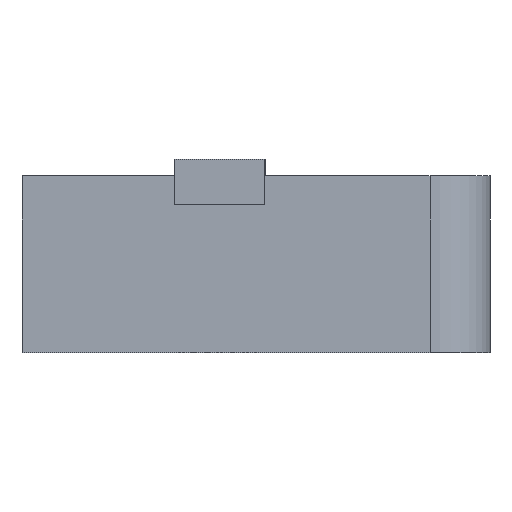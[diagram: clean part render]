
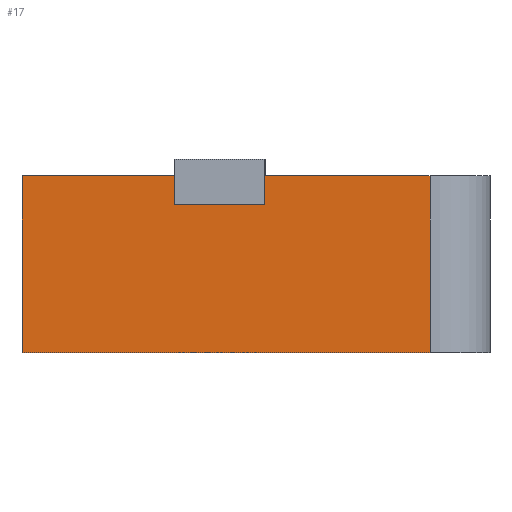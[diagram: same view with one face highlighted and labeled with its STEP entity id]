
A CAD part, left-side view. The second image highlights one B-rep face of the part: STEP entity #17.
In plain terms, the highlighted planar face has unit normal (-1, 0, 0).
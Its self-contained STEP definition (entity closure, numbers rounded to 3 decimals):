
#17 = ADVANCED_FACE('',(#18,#137),#32,.F.);
#18 = FACE_BOUND('',#19,.F.);
#19 = EDGE_LOOP('',(#20,#55,#83,#111));
#20 = ORIENTED_EDGE('',*,*,#21,.F.);
#21 = EDGE_CURVE('',#22,#24,#26,.T.);
#22 = VERTEX_POINT('',#23);
#23 = CARTESIAN_POINT('',(-9.,-55.,2.55));
#24 = VERTEX_POINT('',#25);
#25 = CARTESIAN_POINT('',(-9.,-55.,8.45));
#26 = SURFACE_CURVE('',#27,(#31,#43),.PCURVE_S1.);
#27 = LINE('',#28,#29);
#28 = CARTESIAN_POINT('',(-9.,-55.,2.55));
#29 = VECTOR('',#30,1.);
#30 = DIRECTION('',(0.,0.,1.));
#31 = PCURVE('',#32,#37);
#32 = PLANE('',#33);
#33 = AXIS2_PLACEMENT_3D('',#34,#35,#36);
#34 = CARTESIAN_POINT('',(-9.,-57.,2.55));
#35 = DIRECTION('',(1.,0.,0.));
#36 = DIRECTION('',(0.,0.,1.));
#37 = DEFINITIONAL_REPRESENTATION('',(#38),#42);
#38 = LINE('',#39,#40);
#39 = CARTESIAN_POINT('',(0.,-2.));
#40 = VECTOR('',#41,1.);
#41 = DIRECTION('',(1.,0.));
#42 = ( GEOMETRIC_REPRESENTATION_CONTEXT(2) 
PARAMETRIC_REPRESENTATION_CONTEXT() REPRESENTATION_CONTEXT('2D SPACE',''
  ) );
#43 = PCURVE('',#44,#49);
#44 = CYLINDRICAL_SURFACE('',#45,2.);
#45 = AXIS2_PLACEMENT_3D('',#46,#47,#48);
#46 = CARTESIAN_POINT('',(-7.,-55.,2.55));
#47 = DIRECTION('',(0.,0.,1.));
#48 = DIRECTION('',(-1.,-0.,0.));
#49 = DEFINITIONAL_REPRESENTATION('',(#50),#54);
#50 = LINE('',#51,#52);
#51 = CARTESIAN_POINT('',(0.,0.));
#52 = VECTOR('',#53,1.);
#53 = DIRECTION('',(0.,1.));
#54 = ( GEOMETRIC_REPRESENTATION_CONTEXT(2) 
PARAMETRIC_REPRESENTATION_CONTEXT() REPRESENTATION_CONTEXT('2D SPACE',''
  ) );
#55 = ORIENTED_EDGE('',*,*,#56,.T.);
#56 = EDGE_CURVE('',#22,#57,#59,.T.);
#57 = VERTEX_POINT('',#58);
#58 = CARTESIAN_POINT('',(-9.,-41.4,2.55));
#59 = SURFACE_CURVE('',#60,(#64,#71),.PCURVE_S1.);
#60 = LINE('',#61,#62);
#61 = CARTESIAN_POINT('',(-9.,-57.,2.55));
#62 = VECTOR('',#63,1.);
#63 = DIRECTION('',(0.,1.,0.));
#64 = PCURVE('',#32,#65);
#65 = DEFINITIONAL_REPRESENTATION('',(#66),#70);
#66 = LINE('',#67,#68);
#67 = CARTESIAN_POINT('',(0.,0.));
#68 = VECTOR('',#69,1.);
#69 = DIRECTION('',(0.,-1.));
#70 = ( GEOMETRIC_REPRESENTATION_CONTEXT(2) 
PARAMETRIC_REPRESENTATION_CONTEXT() REPRESENTATION_CONTEXT('2D SPACE',''
  ) );
#71 = PCURVE('',#72,#77);
#72 = PLANE('',#73);
#73 = AXIS2_PLACEMENT_3D('',#74,#75,#76);
#74 = CARTESIAN_POINT('',(-9.,-57.,2.55));
#75 = DIRECTION('',(0.,0.,1.));
#76 = DIRECTION('',(1.,0.,0.));
#77 = DEFINITIONAL_REPRESENTATION('',(#78),#82);
#78 = LINE('',#79,#80);
#79 = CARTESIAN_POINT('',(0.,0.));
#80 = VECTOR('',#81,1.);
#81 = DIRECTION('',(0.,1.));
#82 = ( GEOMETRIC_REPRESENTATION_CONTEXT(2) 
PARAMETRIC_REPRESENTATION_CONTEXT() REPRESENTATION_CONTEXT('2D SPACE',''
  ) );
#83 = ORIENTED_EDGE('',*,*,#84,.T.);
#84 = EDGE_CURVE('',#57,#85,#87,.T.);
#85 = VERTEX_POINT('',#86);
#86 = CARTESIAN_POINT('',(-9.,-41.4,8.45));
#87 = SURFACE_CURVE('',#88,(#92,#99),.PCURVE_S1.);
#88 = LINE('',#89,#90);
#89 = CARTESIAN_POINT('',(-9.,-41.4,1.65));
#90 = VECTOR('',#91,1.);
#91 = DIRECTION('',(0.,0.,1.));
#92 = PCURVE('',#32,#93);
#93 = DEFINITIONAL_REPRESENTATION('',(#94),#98);
#94 = LINE('',#95,#96);
#95 = CARTESIAN_POINT('',(-0.9,-15.6));
#96 = VECTOR('',#97,1.);
#97 = DIRECTION('',(1.,0.));
#98 = ( GEOMETRIC_REPRESENTATION_CONTEXT(2) 
PARAMETRIC_REPRESENTATION_CONTEXT() REPRESENTATION_CONTEXT('2D SPACE',''
  ) );
#99 = PCURVE('',#100,#105);
#100 = PLANE('',#101);
#101 = AXIS2_PLACEMENT_3D('',#102,#103,#104);
#102 = CARTESIAN_POINT('',(-12.5,-41.4,0.75));
#103 = DIRECTION('',(0.,1.,0.));
#104 = DIRECTION('',(0.,0.,1.));
#105 = DEFINITIONAL_REPRESENTATION('',(#106),#110);
#106 = LINE('',#107,#108);
#107 = CARTESIAN_POINT('',(0.9,3.5));
#108 = VECTOR('',#109,1.);
#109 = DIRECTION('',(1.,0.));
#110 = ( GEOMETRIC_REPRESENTATION_CONTEXT(2) 
PARAMETRIC_REPRESENTATION_CONTEXT() REPRESENTATION_CONTEXT('2D SPACE',''
  ) );
#111 = ORIENTED_EDGE('',*,*,#112,.F.);
#112 = EDGE_CURVE('',#24,#85,#113,.T.);
#113 = SURFACE_CURVE('',#114,(#118,#125),.PCURVE_S1.);
#114 = LINE('',#115,#116);
#115 = CARTESIAN_POINT('',(-9.,-57.,8.45));
#116 = VECTOR('',#117,1.);
#117 = DIRECTION('',(0.,1.,0.));
#118 = PCURVE('',#32,#119);
#119 = DEFINITIONAL_REPRESENTATION('',(#120),#124);
#120 = LINE('',#121,#122);
#121 = CARTESIAN_POINT('',(5.9,0.));
#122 = VECTOR('',#123,1.);
#123 = DIRECTION('',(0.,-1.));
#124 = ( GEOMETRIC_REPRESENTATION_CONTEXT(2) 
PARAMETRIC_REPRESENTATION_CONTEXT() REPRESENTATION_CONTEXT('2D SPACE',''
  ) );
#125 = PCURVE('',#126,#131);
#126 = PLANE('',#127);
#127 = AXIS2_PLACEMENT_3D('',#128,#129,#130);
#128 = CARTESIAN_POINT('',(-9.,-57.,8.45));
#129 = DIRECTION('',(0.,0.,1.));
#130 = DIRECTION('',(1.,0.,0.));
#131 = DEFINITIONAL_REPRESENTATION('',(#132),#136);
#132 = LINE('',#133,#134);
#133 = CARTESIAN_POINT('',(0.,0.));
#134 = VECTOR('',#135,1.);
#135 = DIRECTION('',(0.,1.));
#136 = ( GEOMETRIC_REPRESENTATION_CONTEXT(2) 
PARAMETRIC_REPRESENTATION_CONTEXT() REPRESENTATION_CONTEXT('2D SPACE',''
  ) );
#137 = FACE_BOUND('',#138,.F.);
#138 = EDGE_LOOP('',(#139,#169,#197,#225));
#139 = ORIENTED_EDGE('',*,*,#140,.T.);
#140 = EDGE_CURVE('',#141,#143,#145,.T.);
#141 = VERTEX_POINT('',#142);
#142 = CARTESIAN_POINT('',(-9.,-46.5,7.5));
#143 = VERTEX_POINT('',#144);
#144 = CARTESIAN_POINT('',(-9.,-49.5,7.5));
#145 = SURFACE_CURVE('',#146,(#150,#157),.PCURVE_S1.);
#146 = LINE('',#147,#148);
#147 = CARTESIAN_POINT('',(-9.,-53.25,7.5));
#148 = VECTOR('',#149,1.);
#149 = DIRECTION('',(0.,-1.,0.));
#150 = PCURVE('',#32,#151);
#151 = DEFINITIONAL_REPRESENTATION('',(#152),#156);
#152 = LINE('',#153,#154);
#153 = CARTESIAN_POINT('',(4.95,-3.75));
#154 = VECTOR('',#155,1.);
#155 = DIRECTION('',(0.,1.));
#156 = ( GEOMETRIC_REPRESENTATION_CONTEXT(2) 
PARAMETRIC_REPRESENTATION_CONTEXT() REPRESENTATION_CONTEXT('2D SPACE',''
  ) );
#157 = PCURVE('',#158,#163);
#158 = PLANE('',#159);
#159 = AXIS2_PLACEMENT_3D('',#160,#161,#162);
#160 = CARTESIAN_POINT('',(-18.,-49.5,7.5));
#161 = DIRECTION('',(0.,0.,1.));
#162 = DIRECTION('',(1.,0.,0.));
#163 = DEFINITIONAL_REPRESENTATION('',(#164),#168);
#164 = LINE('',#165,#166);
#165 = CARTESIAN_POINT('',(9.,-3.75));
#166 = VECTOR('',#167,1.);
#167 = DIRECTION('',(0.,-1.));
#168 = ( GEOMETRIC_REPRESENTATION_CONTEXT(2) 
PARAMETRIC_REPRESENTATION_CONTEXT() REPRESENTATION_CONTEXT('2D SPACE',''
  ) );
#169 = ORIENTED_EDGE('',*,*,#170,.T.);
#170 = EDGE_CURVE('',#143,#171,#173,.T.);
#171 = VERTEX_POINT('',#172);
#172 = CARTESIAN_POINT('',(-9.,-49.5,8.3));
#173 = SURFACE_CURVE('',#174,(#178,#185),.PCURVE_S1.);
#174 = LINE('',#175,#176);
#175 = CARTESIAN_POINT('',(-9.,-49.5,5.025));
#176 = VECTOR('',#177,1.);
#177 = DIRECTION('',(0.,0.,1.));
#178 = PCURVE('',#32,#179);
#179 = DEFINITIONAL_REPRESENTATION('',(#180),#184);
#180 = LINE('',#181,#182);
#181 = CARTESIAN_POINT('',(2.475,-7.5));
#182 = VECTOR('',#183,1.);
#183 = DIRECTION('',(1.,0.));
#184 = ( GEOMETRIC_REPRESENTATION_CONTEXT(2) 
PARAMETRIC_REPRESENTATION_CONTEXT() REPRESENTATION_CONTEXT('2D SPACE',''
  ) );
#185 = PCURVE('',#186,#191);
#186 = PLANE('',#187);
#187 = AXIS2_PLACEMENT_3D('',#188,#189,#190);
#188 = CARTESIAN_POINT('',(-18.,-49.5,7.5));
#189 = DIRECTION('',(0.,1.,0.));
#190 = DIRECTION('',(0.,0.,1.));
#191 = DEFINITIONAL_REPRESENTATION('',(#192),#196);
#192 = LINE('',#193,#194);
#193 = CARTESIAN_POINT('',(-2.475,9.));
#194 = VECTOR('',#195,1.);
#195 = DIRECTION('',(1.,0.));
#196 = ( GEOMETRIC_REPRESENTATION_CONTEXT(2) 
PARAMETRIC_REPRESENTATION_CONTEXT() REPRESENTATION_CONTEXT('2D SPACE',''
  ) );
#197 = ORIENTED_EDGE('',*,*,#198,.F.);
#198 = EDGE_CURVE('',#199,#171,#201,.T.);
#199 = VERTEX_POINT('',#200);
#200 = CARTESIAN_POINT('',(-9.,-46.5,8.3));
#201 = SURFACE_CURVE('',#202,(#206,#213),.PCURVE_S1.);
#202 = LINE('',#203,#204);
#203 = CARTESIAN_POINT('',(-9.,-53.25,8.3));
#204 = VECTOR('',#205,1.);
#205 = DIRECTION('',(0.,-1.,0.));
#206 = PCURVE('',#32,#207);
#207 = DEFINITIONAL_REPRESENTATION('',(#208),#212);
#208 = LINE('',#209,#210);
#209 = CARTESIAN_POINT('',(5.75,-3.75));
#210 = VECTOR('',#211,1.);
#211 = DIRECTION('',(0.,1.));
#212 = ( GEOMETRIC_REPRESENTATION_CONTEXT(2) 
PARAMETRIC_REPRESENTATION_CONTEXT() REPRESENTATION_CONTEXT('2D SPACE',''
  ) );
#213 = PCURVE('',#214,#219);
#214 = PLANE('',#215);
#215 = AXIS2_PLACEMENT_3D('',#216,#217,#218);
#216 = CARTESIAN_POINT('',(-18.,-49.5,8.3));
#217 = DIRECTION('',(0.,0.,1.));
#218 = DIRECTION('',(1.,0.,0.));
#219 = DEFINITIONAL_REPRESENTATION('',(#220),#224);
#220 = LINE('',#221,#222);
#221 = CARTESIAN_POINT('',(9.,-3.75));
#222 = VECTOR('',#223,1.);
#223 = DIRECTION('',(0.,-1.));
#224 = ( GEOMETRIC_REPRESENTATION_CONTEXT(2) 
PARAMETRIC_REPRESENTATION_CONTEXT() REPRESENTATION_CONTEXT('2D SPACE',''
  ) );
#225 = ORIENTED_EDGE('',*,*,#226,.F.);
#226 = EDGE_CURVE('',#141,#199,#227,.T.);
#227 = SURFACE_CURVE('',#228,(#232,#239),.PCURVE_S1.);
#228 = LINE('',#229,#230);
#229 = CARTESIAN_POINT('',(-9.,-46.5,5.025));
#230 = VECTOR('',#231,1.);
#231 = DIRECTION('',(0.,0.,1.));
#232 = PCURVE('',#32,#233);
#233 = DEFINITIONAL_REPRESENTATION('',(#234),#238);
#234 = LINE('',#235,#236);
#235 = CARTESIAN_POINT('',(2.475,-10.5));
#236 = VECTOR('',#237,1.);
#237 = DIRECTION('',(1.,0.));
#238 = ( GEOMETRIC_REPRESENTATION_CONTEXT(2) 
PARAMETRIC_REPRESENTATION_CONTEXT() REPRESENTATION_CONTEXT('2D SPACE',''
  ) );
#239 = PCURVE('',#240,#245);
#240 = PLANE('',#241);
#241 = AXIS2_PLACEMENT_3D('',#242,#243,#244);
#242 = CARTESIAN_POINT('',(-18.,-46.5,7.5));
#243 = DIRECTION('',(0.,1.,0.));
#244 = DIRECTION('',(0.,0.,1.));
#245 = DEFINITIONAL_REPRESENTATION('',(#246),#250);
#246 = LINE('',#247,#248);
#247 = CARTESIAN_POINT('',(-2.475,9.));
#248 = VECTOR('',#249,1.);
#249 = DIRECTION('',(1.,0.));
#250 = ( GEOMETRIC_REPRESENTATION_CONTEXT(2) 
PARAMETRIC_REPRESENTATION_CONTEXT() REPRESENTATION_CONTEXT('2D SPACE',''
  ) );
